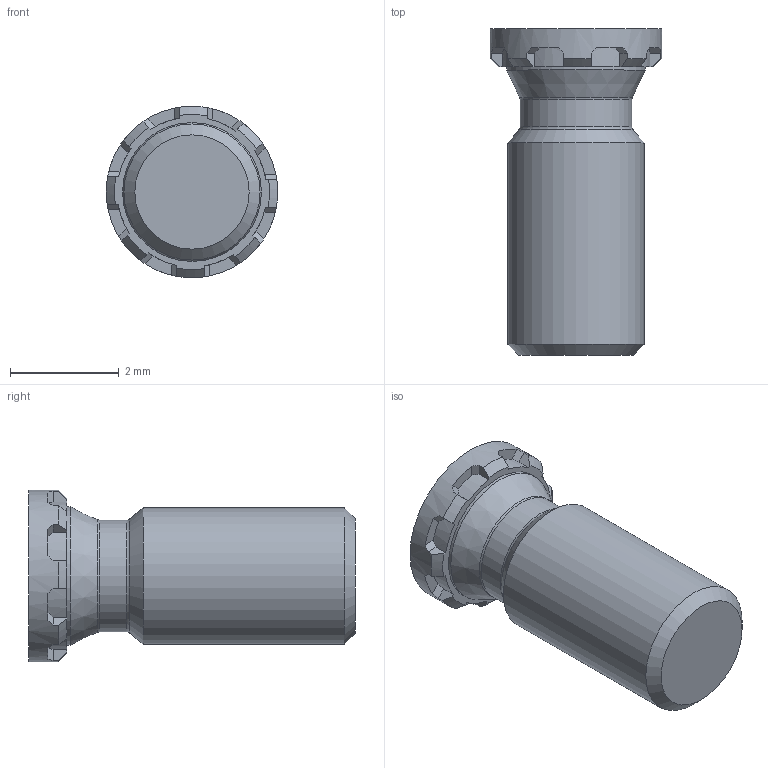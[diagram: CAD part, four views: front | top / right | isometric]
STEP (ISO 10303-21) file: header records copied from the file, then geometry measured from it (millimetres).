
FILE_DESCRIPTION(/* description */ (''),/* implementation_level */ '2;1');
FILE_NAME(/* name */ 'C:\Users\keval.kumar\Desktop\Fastit\Clinch Screw- Reduced FH Range\M2.5\Clinch Screw-Reduced FH Range_M2.5x6.stp',/* time_stamp */ '2024-03-12T12:41:06+05:00',/* author */ ('keval.kumar'),/* organization */ (''),/* preprocessor_version */ 'ST-DEVELOPER v18.1',/* originating_system */ 'Autodesk Inventor 2022',/* authorisation */ '');
FILE_SCHEMA (('AUTOMOTIVE_DESIGN { 1 0 10303 214 3 1 1 }'));
Length unit declared in the file: millimetre
Products named in the file (1): M2.5x6_Clinch Screw-Reduced FH Range
Bounding box: 3.15 x 6 x 3.15 mm (x, y, z)
Volume: 29.4 mm3; surface area: 62.6 mm2
Topology: 1 solids, 1 shells, 68 faces, 193 edges, 128 vertices
Faces by surface type: plane 43, cylinder 12, cone 11, torus 2
Full cylindrical faces by diameter (mm): 2.05 x1, 2.5 x1, 2.55 x1, 3.15 x1
Entity records: 2278 total; most frequent: CARTESIAN_POINT 422, DIRECTION 405, ORIENTED_EDGE 386, EDGE_CURVE 193, AXIS2_PLACEMENT_3D 159, VERTEX_POINT 128, LINE 87, VECTOR 87
